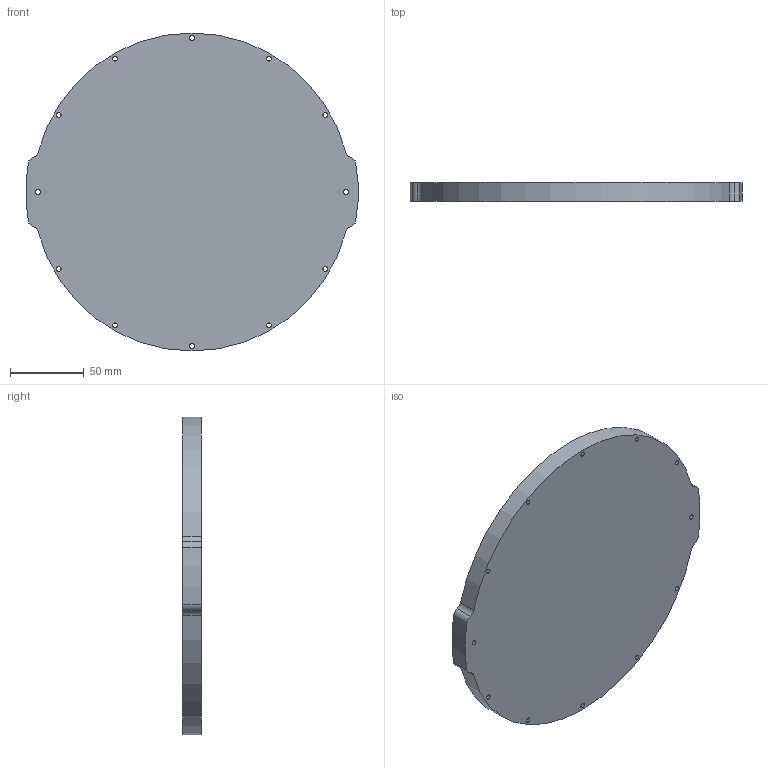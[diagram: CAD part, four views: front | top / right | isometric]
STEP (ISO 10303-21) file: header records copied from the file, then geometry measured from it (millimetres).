
FILE_DESCRIPTION (( 'STEP AP203' ), '1' );
FILE_NAME ('WTE8-P-END-CAP-R1.STEP', '2017-01-12T19:28:42', ( '' ), ( '' ), 'SwSTEP 2.0', 'SolidWorks 2014', '' );
FILE_SCHEMA (( 'CONFIG_CONTROL_DESIGN' ));
Length unit declared in the file: millimetre
Products named in the file (1): WTE8-P-END-CAP-R1
Bounding box: 225.52 x 12.7 x 215.9 mm (x, y, z)
Volume: 469635.5 mm3; surface area: 84298.7 mm2
Topology: 1 solids, 1 shells, 39 faces, 111 edges, 74 vertices
Faces by surface type: cylinder 37, plane 2
Entity records: 1444 total; most frequent: DIRECTION 265, CARTESIAN_POINT 225, ORIENTED_EDGE 222, AXIS2_PLACEMENT_3D 114, EDGE_CURVE 111, CIRCLE 74, VERTEX_POINT 74, EDGE_LOOP 63
